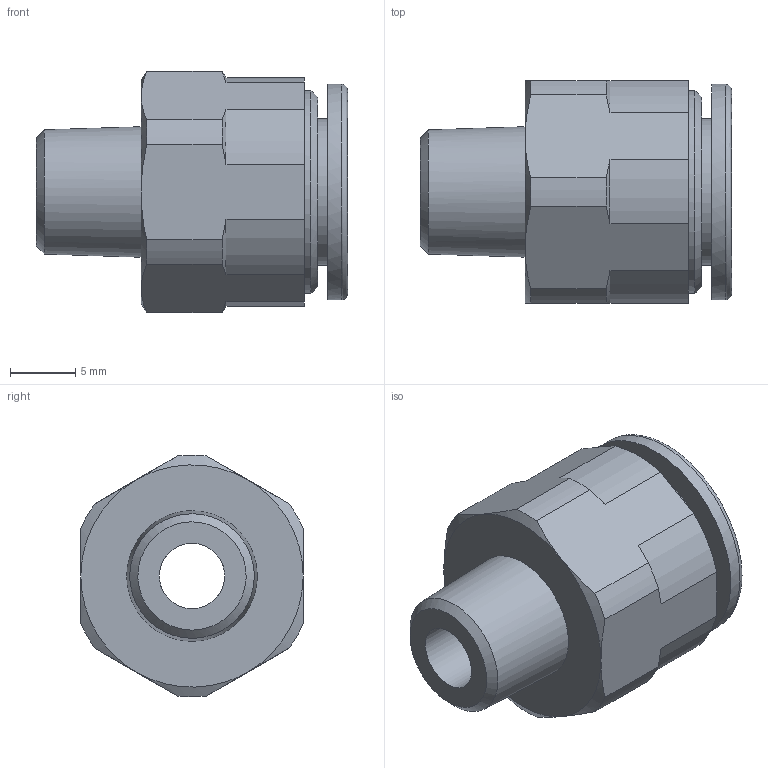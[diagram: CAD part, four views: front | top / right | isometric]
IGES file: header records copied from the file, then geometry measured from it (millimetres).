
Global section: file name: [11] FS10-01M FS10-01MW; native system: Autodesk Inventor 2014; preprocessor: unknown; author: kazuhiro.t; date: 20130806.164542; units: millimetre
Bounding box: 23.8 x 17 x 18.5 mm (x, y, z)
Volume: 2860.4 mm3; surface area: 2328.7 mm2
Topology: 1 solids, 1 shells, 46 faces, 112 edges, 73 vertices
Faces by surface type: bspline 46
